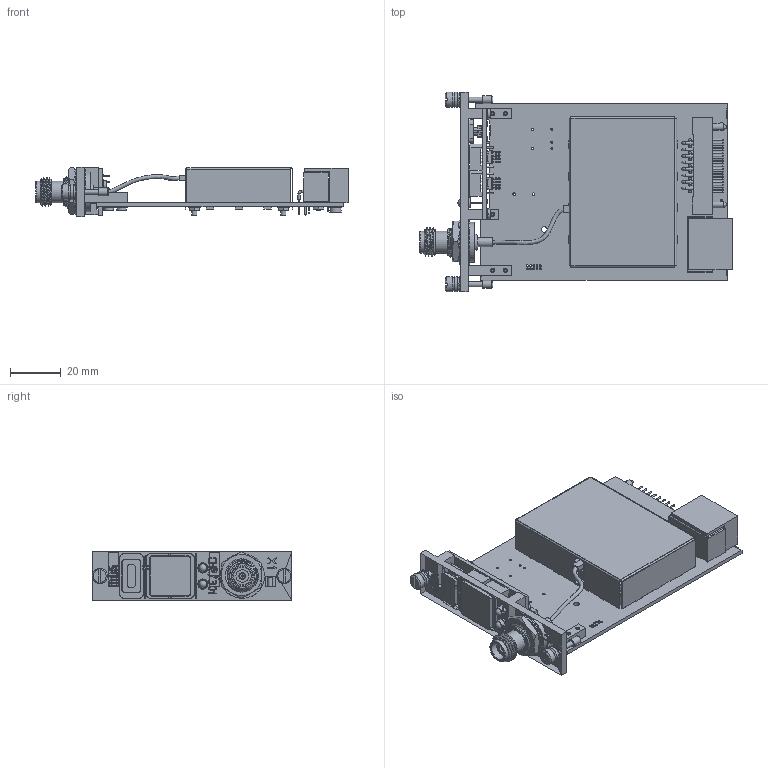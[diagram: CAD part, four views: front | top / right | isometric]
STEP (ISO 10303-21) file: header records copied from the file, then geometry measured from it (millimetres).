
FILE_DESCRIPTION(('STEP AP203'), '1');
FILE_NAME('帎迗.464349.002 沓劌錪 眝3_敊娕301', '', ('UNSPECIFIED'), ('UNSPECIFIED'), 'C3D Converter', 'C3D Toolkit', '');
FILE_SCHEMA(('CONFIG_CONTROL_DESIGN'));
Length unit declared in the file: millimetre
Products named in the file (1): КМНТ.464349.002
Bounding box: 122.65 x 78.5 x 19.6 mm (x, y, z)
Volume: 11168.6 mm3; surface area: 48734.5 mm2
Topology: 17 solids, 19 shells, 5976 faces, 16673 edges, 10670 vertices
Faces by surface type: plane 3820, cylinder 1626, bspline 325, sphere 103, torus 58, cone 44
Full cylindrical faces by diameter (mm): 0.5 x9, 0.508 x24, 0.6 x45, 0.66 x1, 0.7 x46, 0.8 x22, 0.9 x20, 1 x48, 1.1 x7, 1.4 x2, 1.567 x7, 1.6 x2, 2 x17, 2.2 x12, 2.4 x8, 2.459 x2, 2.49 x2, 2.5 x1, 2.618 x1, 3 x4, 3.2 x2, 3.4 x1, 3.5 x7, 3.8 x11, 4 x2, 4.5 x17, 5 x3, 6 x6, 7 x1, 8.6 x2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
Entity records: 270964 total; most frequent: CARTESIAN_POINT 71924, ORIENTED_EDGE 32234, DIRECTION 29379, EDGE_CURVE 16117, LINE 11515, VECTOR 11515, VERTEX_POINT 10652, AXIS2_PLACEMENT_3D 8932
